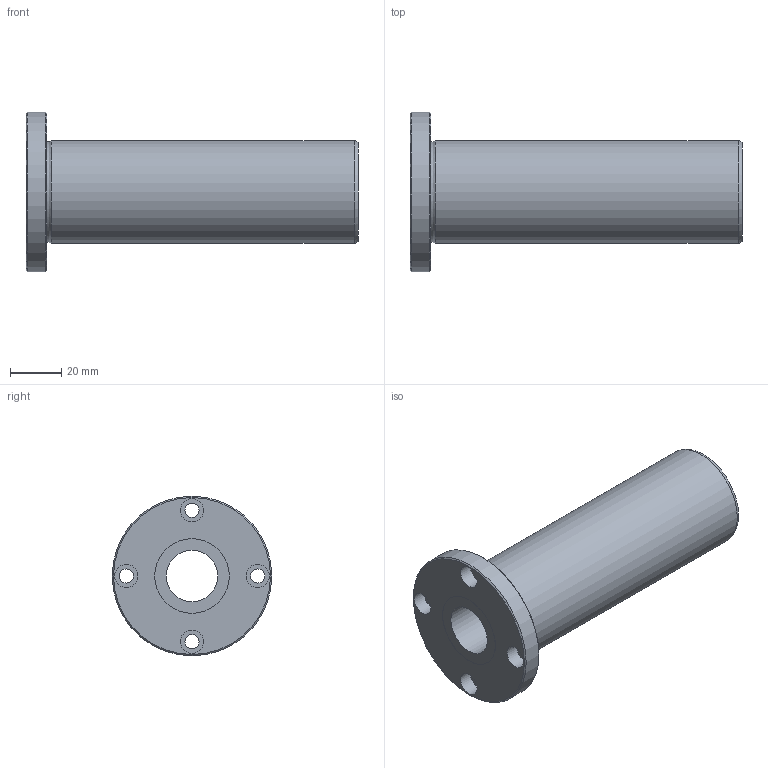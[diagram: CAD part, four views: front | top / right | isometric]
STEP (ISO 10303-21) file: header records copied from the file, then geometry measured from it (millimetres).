
FILE_DESCRIPTION((''),'2;1');
FILE_NAME('D:\製品 (図面)\カタログ用3D\メンテナンスフリー関連\STEP形式\LFL-MF\LFL20MF.stp','2010-06-01T16:04:03',('Tsuchiya'),(''),'Autodesk Inventor 10','Autodesk Inventor 10','');
FILE_SCHEMA(('AUTOMOTIVE_DESIGN { 1 0 10303 214 1 1 1 1 }'));
Length unit declared in the file: millimetre
Products named in the file (1): LFL20MF
Bounding box: 129 x 62 x 62 mm (x, y, z)
Volume: 133811.2 mm3; surface area: 30759.1 mm2
Topology: 1 solids, 1 shells, 26 faces, 47 edges, 30 vertices
Faces by surface type: cylinder 13, plane 9, cone 2, torus 1, bspline 1
Full cylindrical faces by diameter (mm): 5.5 x4, 9 x4, 20 x1, 29 x2, 40 x1, 62 x1
Entity records: 665 total; most frequent: CARTESIAN_POINT 149, DIRECTION 112, ORIENTED_EDGE 60, EDGE_LOOP 60, AXIS2_PLACEMENT_3D 56, FACE_BOUND 34, VERTEX_POINT 30, CIRCLE 30
